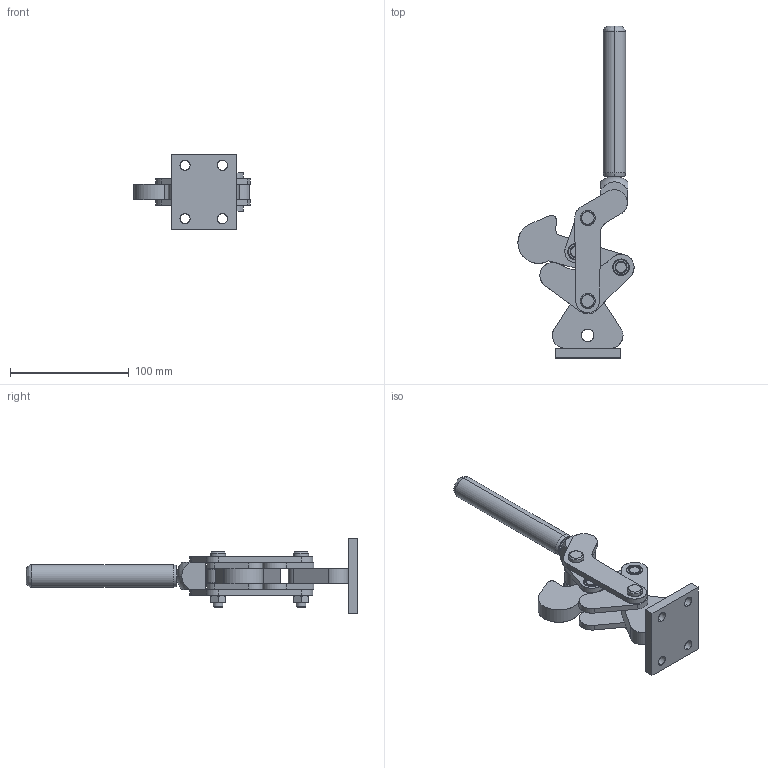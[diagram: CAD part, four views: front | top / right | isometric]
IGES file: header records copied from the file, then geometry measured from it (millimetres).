
Start section: SolidWorks IGES file using analytic representation for surfaces
Global section: file name: C:\Projetos\Grampos\KFU\KFU-05\KFU-05 D.IGS; native system: SolidWorks 2012; preprocessor: SolidWorks 2012; author: Ricardo; date: 121122.164652; units: millimetre
Bounding box: 97.96 x 280 x 64 mm (x, y, z)
Surface area: 75349.3 mm2 (no closed solid volume)
Topology: 0 solids, 0 shells, 351 faces, 5880 edges, 5873 vertices
Faces by surface type: revolution 247, bspline 104
